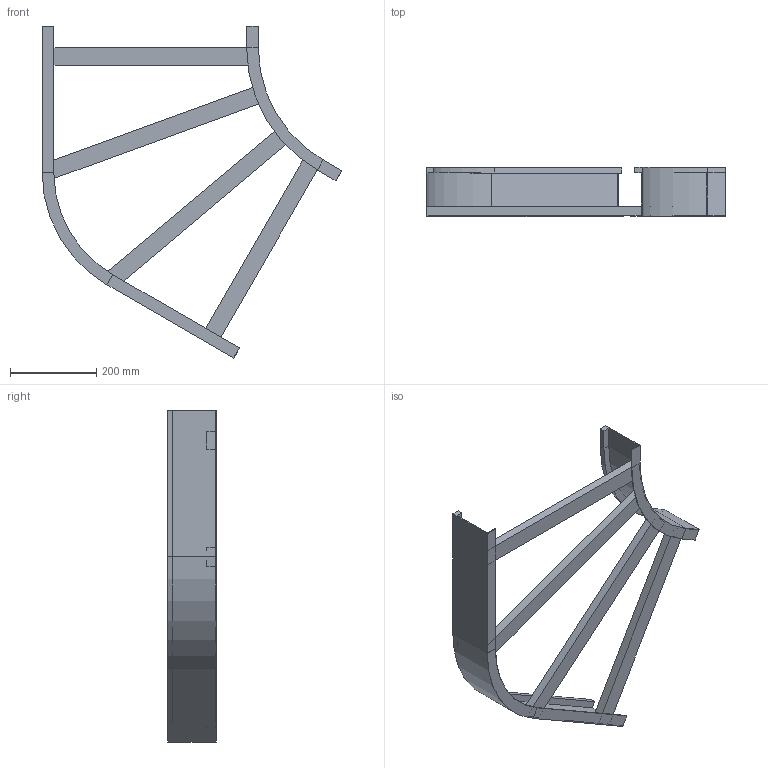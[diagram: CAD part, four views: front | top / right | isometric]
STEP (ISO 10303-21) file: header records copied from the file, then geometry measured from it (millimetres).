
FILE_DESCRIPTION (( 'STEP AP214' ), '1' );
FILE_NAME ('B2_13B3J500.step', '2025-02-21T15:20:06', ( '' ), ( '' ), 'SwSTEP 2.0', 'SolidWorks 2023', '' );
FILE_SCHEMA (( 'AUTOMOTIVE_DESIGN' ));
Length unit declared in the file: millimetre
Products named in the file (5): B2_LONGH.INTERNO 60°_H112.5_R300; B2_LONGH.ESTERNO 60°_H112.5_R300+500; TRAVERSINO_600_SCANTONATO; B2_13B3J500; TRAVERSINO_500
Assembly tree (6 placements, depth 2):
  B2_13B3J500
    B2_LONGH.INTERNO 60°_H112.5_R300
    B2_LONGH.ESTERNO 60°_H112.5_R300+500
    TRAVERSINO_500  x2
    TRAVERSINO_600_SCANTONATO  x2
Bounding box: 693.3 x 112.5 x 767.82 mm (x, y, z)
Volume: 2345297.3 mm3; surface area: 697877.4 mm2
Topology: 6 solids, 6 shells, 76 faces, 160 edges, 96 vertices
Faces by surface type: plane 68, cylinder 8
Entity records: 1830 total; most frequent: DIRECTION 298, CARTESIAN_POINT 289, ORIENTED_EDGE 272, EDGE_CURVE 136, LINE 120, VECTOR 120, AXIS2_PLACEMENT_3D 89, VERTEX_POINT 80
